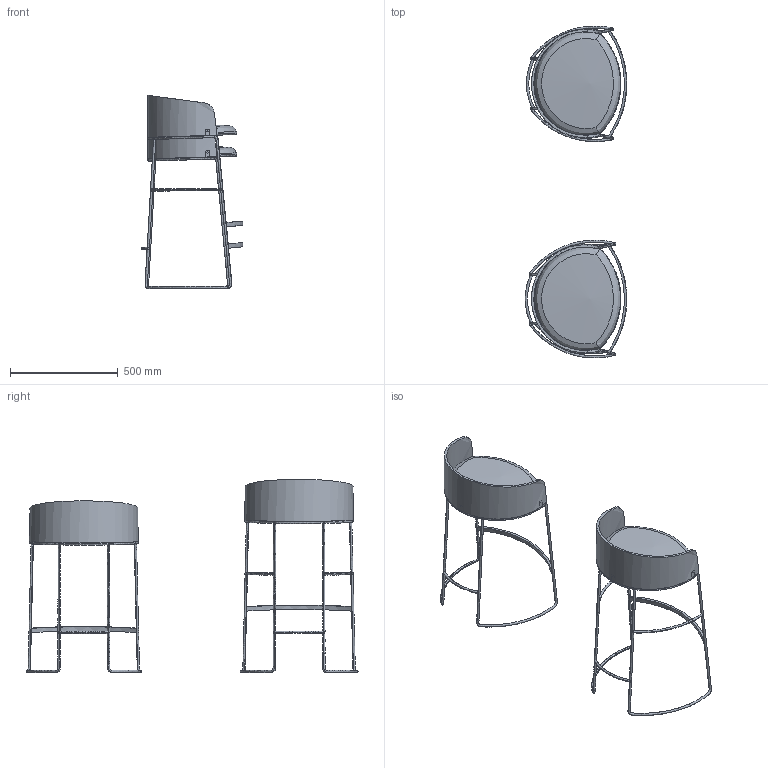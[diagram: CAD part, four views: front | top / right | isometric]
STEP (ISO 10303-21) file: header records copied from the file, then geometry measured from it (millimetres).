
FILE_DESCRIPTION(/* description */ (''),/* implementation_level */ '2;1');
FILE_NAME(/* name */ 'TONICL~1',/* time_stamp */ '2026-05-13T10:51:11+02:00',/* author */ (''),/* organization */ (''),/* preprocessor_version */ 'ST-DEVELOPER v15',/* originating_system */ '',/* authorisation */ '');
FILE_SCHEMA (('AUTOMOTIVE_DESIGN'));
Length unit declared in the file: millimetre
Products named in the file (1): Document
Bounding box: 473.1 x 1542.38 x 897.92 mm (x, y, z)
Volume: 17619125.4 mm3; surface area: 1884593.5 mm2
Topology: 24 solids, 24 shells, 238 faces, 548 edges, 372 vertices
Faces by surface type: bspline 128, plane 110
Entity records: 20926 total; most frequent: CARTESIAN_POINT 17121, ORIENTED_EDGE 1080, EDGE_CURVE 540, VERTEX_POINT 356, B_SPLINE_CURVE_WITH_KNOTS 346, EDGE_LOOP 272, ADVANCED_FACE 238, FACE_OUTER_BOUND 238
